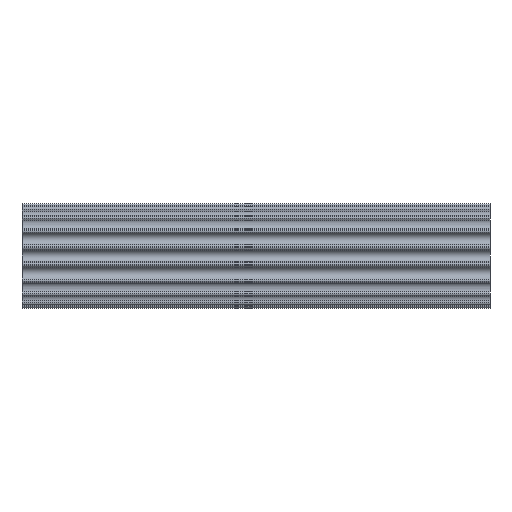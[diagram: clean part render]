
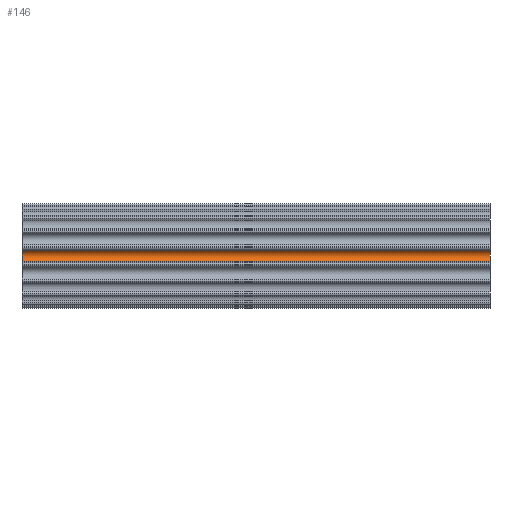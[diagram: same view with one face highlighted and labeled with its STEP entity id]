
A CAD part, front view. The second image highlights one B-rep face of the part: STEP entity #146.
In plain terms, the highlighted cylindrical face has radius 2.675 mm (diameter 5.35 mm), a partial arc.
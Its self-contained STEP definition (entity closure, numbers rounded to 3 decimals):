
#146 = ADVANCED_FACE( '', ( #328 ), #329, .F. );
#328 = FACE_OUTER_BOUND( '', #548, .T. );
#329 = CYLINDRICAL_SURFACE( '', #549, 2.675 );
#548 = EDGE_LOOP( '', ( #1331, #1332, #1333, #1334 ) );
#549 = AXIS2_PLACEMENT_3D( '', #1335, #1336, #1337 );
#1331 = ORIENTED_EDGE( '', *, *, #1775, .T. );
#1332 = ORIENTED_EDGE( '', *, *, #1897, .F. );
#1333 = ORIENTED_EDGE( '', *, *, #1666, .F. );
#1334 = ORIENTED_EDGE( '', *, *, #1896, .T. );
#1335 = CARTESIAN_POINT( '', ( 0., -21.61, 0. ) );
#1336 = DIRECTION( '', ( -1., 0., 0. ) );
#1337 = DIRECTION( '', ( 0., 0., 1. ) );
#1666 = EDGE_CURVE( '', #2048, #2050, #2051, .T. );
#1775 = EDGE_CURVE( '', #2262, #2260, #2263, .T. );
#1896 = EDGE_CURVE( '', #2048, #2262, #2436, .T. );
#1897 = EDGE_CURVE( '', #2050, #2260, #2437, .T. );
#2048 = VERTEX_POINT( '', #2611 );
#2050 = VERTEX_POINT( '', #2614 );
#2051 = CIRCLE( '', #2615, 2.675 );
#2260 = VERTEX_POINT( '', #2863 );
#2262 = VERTEX_POINT( '', #2866 );
#2263 = CIRCLE( '', #2867, 2.675 );
#2436 = LINE( '', #3124, #3125 );
#2437 = LINE( '', #3126, #3127 );
#2611 = CARTESIAN_POINT( '', ( 0., -20.698, -2.515 ) );
#2614 = CARTESIAN_POINT( '', ( 0., -20.698, 2.515 ) );
#2615 = AXIS2_PLACEMENT_3D( '', #3326, #3327, #3328 );
#2863 = CARTESIAN_POINT( '', ( 200., -20.698, 2.515 ) );
#2866 = CARTESIAN_POINT( '', ( 200., -20.698, -2.515 ) );
#2867 = AXIS2_PLACEMENT_3D( '', #3573, #3574, #3575 );
#3124 = CARTESIAN_POINT( '', ( 0., -20.698, -2.515 ) );
#3125 = VECTOR( '', #3768, 1000. );
#3126 = CARTESIAN_POINT( '', ( 0., -20.698, 2.515 ) );
#3127 = VECTOR( '', #3769, 1000. );
#3326 = CARTESIAN_POINT( '', ( 0., -21.61, 0. ) );
#3327 = DIRECTION( '', ( 1., 0., 0. ) );
#3328 = DIRECTION( '', ( 0., 0., 1. ) );
#3573 = CARTESIAN_POINT( '', ( 200., -21.61, 0. ) );
#3574 = DIRECTION( '', ( 1., 0., 0. ) );
#3575 = DIRECTION( '', ( 0., 0., 1. ) );
#3768 = DIRECTION( '', ( 1., 0., 0. ) );
#3769 = DIRECTION( '', ( 1., 0., 0. ) );
